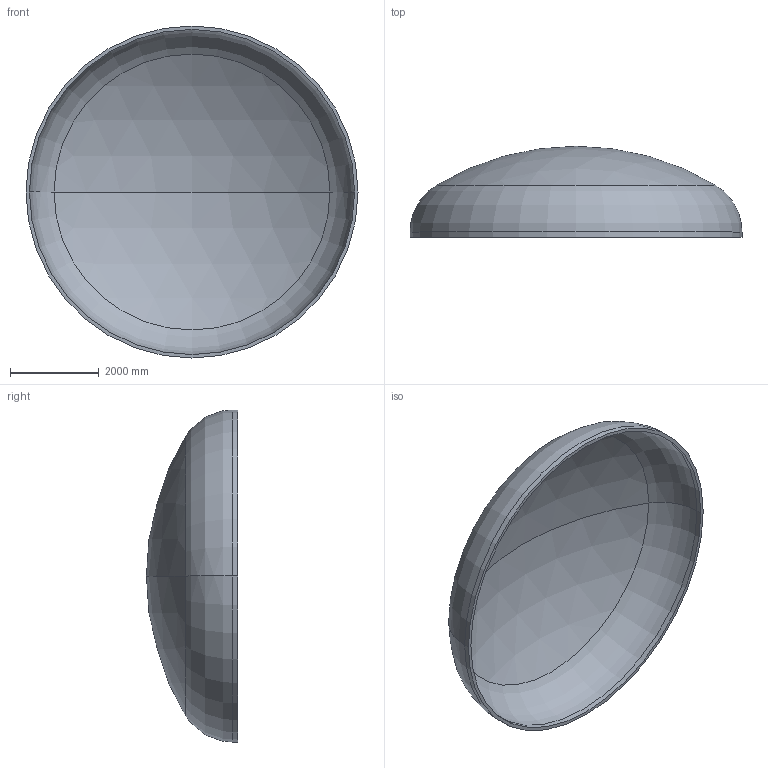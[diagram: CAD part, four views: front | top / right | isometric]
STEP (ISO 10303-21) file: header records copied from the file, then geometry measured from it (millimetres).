
FILE_DESCRIPTION (( 'STEP AP203' ), '1' );
FILE_NAME ('DIN 28013 Korbbogenform_-_Boden DIN 28013 - 7500 x 120 - I - s=78.step', '2016-07-04T10:55:56', ( '' ), ( '' ), 'SwSTEP 2.0', 'SolidWorks 2013', '' );
FILE_SCHEMA (( 'CONFIG_CONTROL_DESIGN' ));
Length unit declared in the file: millimetre
Products named in the file (1): DIN 28013 Korbbogenform_-_Boden DIN 28013 - 7500 x 120 - I - s=78
Bounding box: 7500 x 2058.1 x 7500 mm (x, y, z)
Volume: 4925624840.8 mm3; surface area: 128129484.8 mm2
Topology: 1 solids, 1 shells, 13 faces, 24 edges, 14 vertices
Faces by surface type: torus 4, cylinder 4, sphere 4, plane 1
Entity records: 407 total; most frequent: DIRECTION 72, CARTESIAN_POINT 52, ORIENTED_EDGE 48, AXIS2_PLACEMENT_3D 34, EDGE_CURVE 24, CIRCLE 20, EDGE_LOOP 14, VERTEX_POINT 14
